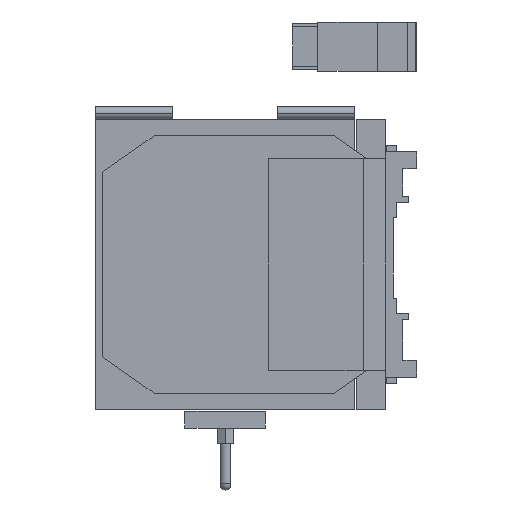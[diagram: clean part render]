
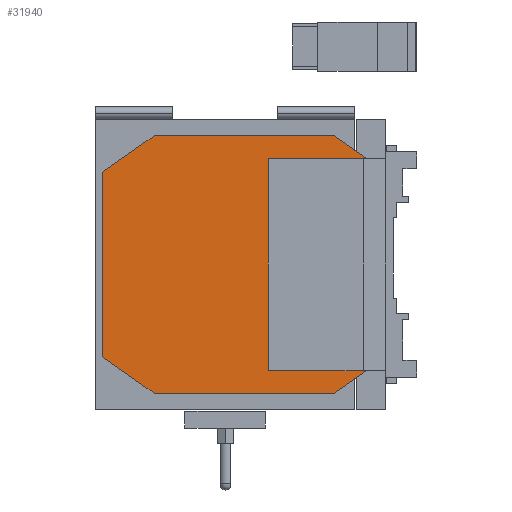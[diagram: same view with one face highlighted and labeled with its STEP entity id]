
A CAD part, left-side view. The second image highlights one B-rep face of the part: STEP entity #31940.
In plain terms, the highlighted planar face has unit normal (-1, 0, 0).
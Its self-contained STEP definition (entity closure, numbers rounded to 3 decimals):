
#3652=DIRECTION('',(0.,0.819,-0.574));
#3653=VECTOR('',#3652,12.751);
#3654=CARTESIAN_POINT('',(-39.531,16.243,-34.315));
#3655=LINE('',#3654,#3653);
#3656=DIRECTION('',(0.,1.,0.));
#3657=VECTOR('',#3656,58.313);
#3658=CARTESIAN_POINT('',(-39.531,26.688,-41.63));
#3659=LINE('',#3658,#3657);
#3660=DIRECTION('',(0.,0.819,0.574));
#3661=VECTOR('',#3660,20.373);
#3662=CARTESIAN_POINT('',(-39.531,85.,-41.63));
#3663=LINE('',#3662,#3661);
#3664=DIRECTION('',(0.,0.,1.));
#3665=VECTOR('',#3664,59.885);
#3666=CARTESIAN_POINT('',(-39.531,101.688,-29.943));
#3667=LINE('',#3666,#3665);
#3668=DIRECTION('',(0.,-0.819,0.574));
#3669=VECTOR('',#3668,20.373);
#3670=CARTESIAN_POINT('',(-39.531,101.688,29.943));
#3671=LINE('',#3670,#3669);
#3672=DIRECTION('',(0.,-1.,0.));
#3673=VECTOR('',#3672,58.313);
#3674=CARTESIAN_POINT('',(-39.531,85.,41.63));
#3675=LINE('',#3674,#3673);
#3676=DIRECTION('',(0.,-0.819,-0.574));
#3677=VECTOR('',#3676,12.751);
#3678=CARTESIAN_POINT('',(-39.531,26.688,41.63));
#3679=LINE('',#3678,#3677);
#3680=DIRECTION('',(0.,1.,0.));
#3681=VECTOR('',#3680,31.757);
#3682=CARTESIAN_POINT('',(-39.531,16.243,-34.315));
#3683=LINE('',#3682,#3681);
#3716=DIRECTION('',(0.,0.,1.));
#3717=VECTOR('',#3716,68.63);
#3718=CARTESIAN_POINT('',(-39.531,48.,-34.315));
#3719=LINE('',#3718,#3717);
#5569=DIRECTION('',(0.,1.,0.));
#5570=VECTOR('',#5569,31.757);
#5571=CARTESIAN_POINT('',(-39.531,16.243,34.315));
#5572=LINE('',#5571,#5570);
#22410=CARTESIAN_POINT('',(-39.531,26.688,-41.63));
#22411=CARTESIAN_POINT('',(-39.531,85.,-41.63));
#22412=VERTEX_POINT('',#22410);
#22413=VERTEX_POINT('',#22411);
#22414=CARTESIAN_POINT('',(-39.531,101.688,-29.943));
#22415=VERTEX_POINT('',#22414);
#22416=CARTESIAN_POINT('',(-39.531,101.688,29.943));
#22417=VERTEX_POINT('',#22416);
#22418=CARTESIAN_POINT('',(-39.531,85.,41.63));
#22419=VERTEX_POINT('',#22418);
#22420=CARTESIAN_POINT('',(-39.531,26.688,41.63));
#22421=VERTEX_POINT('',#22420);
#22422=CARTESIAN_POINT('',(-39.531,16.243,-34.315));
#22423=CARTESIAN_POINT('',(-39.531,48.,-34.315));
#22424=VERTEX_POINT('',#22422);
#22425=VERTEX_POINT('',#22423);
#22426=CARTESIAN_POINT('',(-39.531,16.243,34.315));
#22427=CARTESIAN_POINT('',(-39.531,48.,34.315));
#22428=VERTEX_POINT('',#22426);
#22429=VERTEX_POINT('',#22427);
#31916=CARTESIAN_POINT('',(-39.531,0.,-34.315));
#31917=DIRECTION('',(1.,0.,0.));
#31918=DIRECTION('',(0.,-1.,0.));
#31919=AXIS2_PLACEMENT_3D('',#31916,#31917,#31918);
#31920=PLANE('',#31919);
#31922=ORIENTED_EDGE('',*,*,#31921,.F.);
#31924=ORIENTED_EDGE('',*,*,#31923,.T.);
#31925=ORIENTED_EDGE('',*,*,#30852,.T.);
#31926=ORIENTED_EDGE('',*,*,#31910,.T.);
#31927=ORIENTED_EDGE('',*,*,#29765,.T.);
#31929=ORIENTED_EDGE('',*,*,#31928,.T.);
#31931=ORIENTED_EDGE('',*,*,#31930,.T.);
#31933=ORIENTED_EDGE('',*,*,#31932,.T.);
#31935=ORIENTED_EDGE('',*,*,#31934,.T.);
#31937=ORIENTED_EDGE('',*,*,#31936,.F.);
#31938=EDGE_LOOP('',(#31922,#31924,#31925,#31926,#31927,#31929,#31931,#31933,
#31935,#31937));
#31939=FACE_OUTER_BOUND('',#31938,.F.);
#31940=ADVANCED_FACE('',(#31939),#31920,.F.);
#29765=EDGE_CURVE('',#22415,#22417,#3667,.T.);
#30852=EDGE_CURVE('',#22412,#22413,#3659,.T.);
#31910=EDGE_CURVE('',#22413,#22415,#3663,.T.);
#31921=EDGE_CURVE('',#22424,#22425,#3683,.T.);
#31923=EDGE_CURVE('',#22424,#22412,#3655,.T.);
#31928=EDGE_CURVE('',#22417,#22419,#3671,.T.);
#31930=EDGE_CURVE('',#22419,#22421,#3675,.T.);
#31932=EDGE_CURVE('',#22421,#22428,#3679,.T.);
#31934=EDGE_CURVE('',#22428,#22429,#5572,.T.);
#31936=EDGE_CURVE('',#22425,#22429,#3719,.T.);
